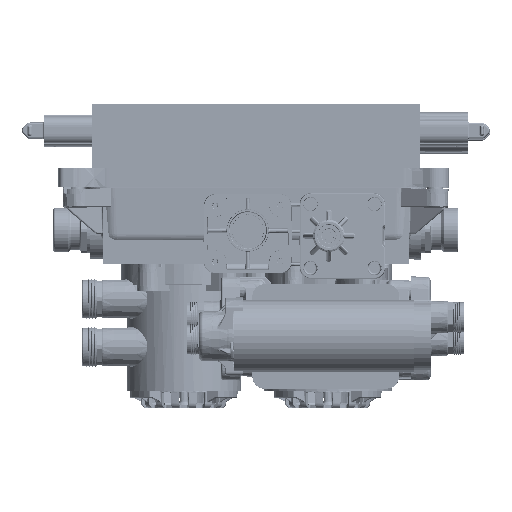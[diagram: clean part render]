
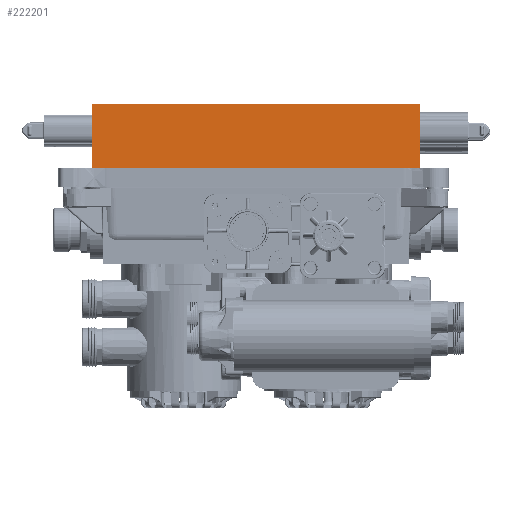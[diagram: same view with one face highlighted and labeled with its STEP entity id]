
A CAD part, top view. The second image highlights one B-rep face of the part: STEP entity #222201.
In plain terms, the highlighted planar face has unit normal (0, 0, 1).
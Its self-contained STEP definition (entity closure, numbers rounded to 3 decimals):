
#212787=DIRECTION('',(1.,0.,0.));
#212788=VECTOR('',#212787,205.12);
#212789=CARTESIAN_POINT('',(-102.62,56.07,116.225));
#212790=LINE('',#212789,#212788);
#212794=DIRECTION('',(0.,1.,0.));
#212795=VECTOR('',#212794,40.03);
#212796=CARTESIAN_POINT('',(102.5,56.07,116.225));
#212797=LINE('',#212796,#212795);
#213838=DIRECTION('',(0.,1.,0.));
#213839=VECTOR('',#213838,40.03);
#213840=CARTESIAN_POINT('',(-102.62,56.07,116.225));
#213841=LINE('',#213840,#213839);
#215131=DIRECTION('',(1.,0.,0.));
#215132=VECTOR('',#215131,205.12);
#215133=CARTESIAN_POINT('',(-102.62,96.1,116.225));
#215134=LINE('',#215133,#215132);
#220090=CARTESIAN_POINT('',(102.5,96.1,116.225));
#220092=VERTEX_POINT('',#220090);
#220096=CARTESIAN_POINT('',(-102.62,96.1,116.225));
#220097=VERTEX_POINT('',#220096);
#220098=CARTESIAN_POINT('',(102.5,56.07,116.225));
#220099=VERTEX_POINT('',#220098);
#220104=CARTESIAN_POINT('',(-102.62,56.07,116.225));
#220105=VERTEX_POINT('',#220104);
#222188=CARTESIAN_POINT('',(-102.62,56.1,116.225));
#222189=DIRECTION('',(0.,0.,1.));
#222190=DIRECTION('',(1.,0.,0.));
#222191=AXIS2_PLACEMENT_3D('',#222188,#222189,#222190);
#222192=PLANE('',#222191);
#222193=ORIENTED_EDGE('',*,*,#221907,.F.);
#222194=ORIENTED_EDGE('',*,*,#221890,.F.);
#222196=ORIENTED_EDGE('',*,*,#222195,.T.);
#222198=ORIENTED_EDGE('',*,*,#222197,.T.);
#222199=EDGE_LOOP('',(#222193,#222194,#222196,#222198));
#222200=FACE_OUTER_BOUND('',#222199,.F.);
#221890=EDGE_CURVE('',#220105,#220099,#212790,.T.);
#221907=EDGE_CURVE('',#220099,#220092,#212797,.T.);
#222195=EDGE_CURVE('',#220105,#220097,#213841,.T.);
#222197=EDGE_CURVE('',#220097,#220092,#215134,.T.);
#222201=ADVANCED_FACE('',(#222200),#222192,.T.);
